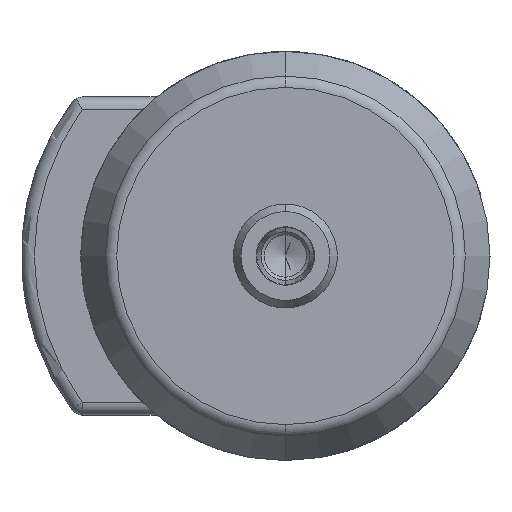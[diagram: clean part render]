
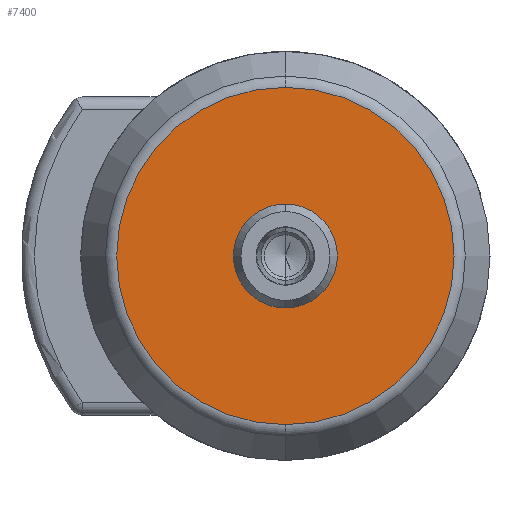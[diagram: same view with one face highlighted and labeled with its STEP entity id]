
A CAD part, front view. The second image highlights one B-rep face of the part: STEP entity #7400.
In plain terms, the highlighted planar face has unit normal (0, -1, 0).
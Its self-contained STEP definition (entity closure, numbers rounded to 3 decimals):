
#332 = DIRECTION ( 'NONE',  ( 0., 1., 0. ) ) ;
#1165 = DIRECTION ( 'NONE',  ( 0., 0., 1. ) ) ;
#1238 = DIRECTION ( 'NONE',  ( 0., 1., 0. ) ) ;
#1344 = DIRECTION ( 'NONE',  ( 0., -1., 0. ) ) ;
#1548 = ORIENTED_EDGE ( 'NONE', *, *, #5158, .T. ) ;
#1651 = CARTESIAN_POINT ( 'NONE',  ( 0., 0., -7.75 ) ) ;
#1931 = CARTESIAN_POINT ( 'NONE',  ( 0., 0., 0. ) ) ;
#1950 = EDGE_CURVE ( 'NONE', #8780, #7753, #7062, .T. ) ;
#1984 = CARTESIAN_POINT ( 'NONE',  ( 0., 0., 0. ) ) ;
#2163 = CARTESIAN_POINT ( 'NONE',  ( 0., 0., 0. ) ) ;
#2250 = FACE_BOUND ( 'NONE', #2280, .T. ) ;
#2280 = EDGE_LOOP ( 'NONE', ( #1548, #4898 ) ) ;
#2327 = VERTEX_POINT ( 'NONE', #7915 ) ;
#2512 = FACE_OUTER_BOUND ( 'NONE', #5126, .T. ) ;
#3049 = DIRECTION ( 'NONE',  ( 0., 0., 1. ) ) ;
#3186 = CARTESIAN_POINT ( 'NONE',  ( 0., 0., 0. ) ) ;
#4002 = DIRECTION ( 'NONE',  ( 0., 0., 1. ) ) ;
#4266 = EDGE_CURVE ( 'NONE', #7753, #8780, #6926, .T. ) ;
#4643 = CIRCLE ( 'NONE', #7099, 7.75 ) ;
#4738 = DIRECTION ( 'NONE',  ( 0., 1., 0. ) ) ;
#4898 = ORIENTED_EDGE ( 'NONE', *, *, #9913, .T. ) ;
#5126 = EDGE_LOOP ( 'NONE', ( #6337, #8514 ) ) ;
#5158 = EDGE_CURVE ( 'NONE', #2327, #5175, #5759, .T. ) ;
#5175 = VERTEX_POINT ( 'NONE', #1651 ) ;
#5400 = AXIS2_PLACEMENT_3D ( 'NONE', #2163, #1344, #8505 ) ;
#5759 = CIRCLE ( 'NONE', #8601, 7.75 ) ;
#5890 = CARTESIAN_POINT ( 'NONE',  ( 0., 0., 25.969 ) ) ;
#6016 = DIRECTION ( 'NONE',  ( 0., 0., 1. ) ) ;
#6337 = ORIENTED_EDGE ( 'NONE', *, *, #4266, .F. ) ;
#6714 = CARTESIAN_POINT ( 'NONE',  ( 0., 0., -25.969 ) ) ;
#6926 = CIRCLE ( 'NONE', #9197, 25.969 ) ;
#7062 = CIRCLE ( 'NONE', #9644, 25.969 ) ;
#7099 = AXIS2_PLACEMENT_3D ( 'NONE', #1984, #1238, #1165 ) ;
#7400 = ADVANCED_FACE ( 'NONE', ( #2250, #2512 ), #10170, .T. ) ;
#7753 = VERTEX_POINT ( 'NONE', #5890 ) ;
#7915 = CARTESIAN_POINT ( 'NONE',  ( 0., 0., 7.75 ) ) ;
#8505 = DIRECTION ( 'NONE',  ( 0., 0., -1. ) ) ;
#8514 = ORIENTED_EDGE ( 'NONE', *, *, #1950, .F. ) ;
#8601 = AXIS2_PLACEMENT_3D ( 'NONE', #3186, #8868, #4002 ) ;
#8780 = VERTEX_POINT ( 'NONE', #6714 ) ;
#8868 = DIRECTION ( 'NONE',  ( 0., 1., 0. ) ) ;
#9197 = AXIS2_PLACEMENT_3D ( 'NONE', #9561, #4738, #3049 ) ;
#9561 = CARTESIAN_POINT ( 'NONE',  ( 0., 0., 0. ) ) ;
#9644 = AXIS2_PLACEMENT_3D ( 'NONE', #1931, #332, #6016 ) ;
#9913 = EDGE_CURVE ( 'NONE', #5175, #2327, #4643, .T. ) ;
#10170 = PLANE ( 'NONE',  #5400 ) ;
